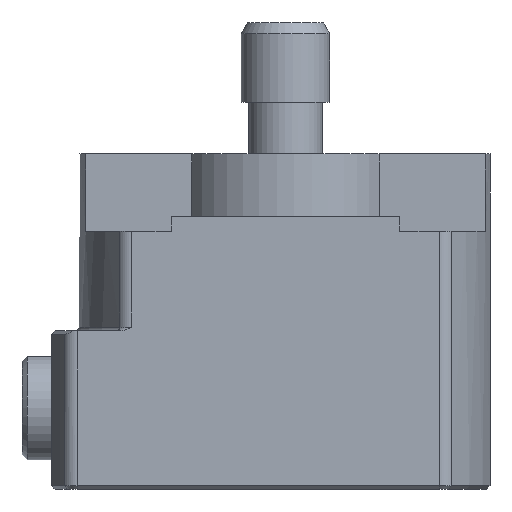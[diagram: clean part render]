
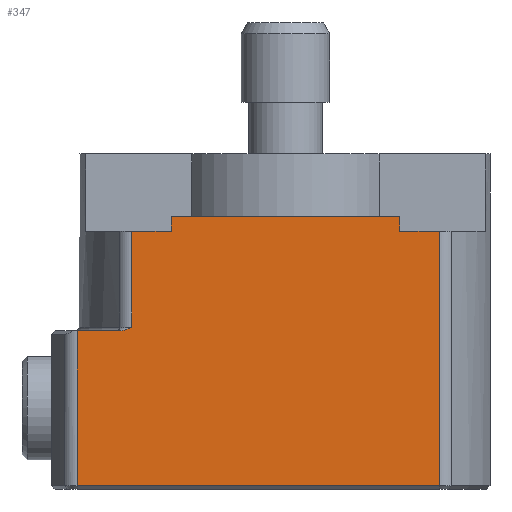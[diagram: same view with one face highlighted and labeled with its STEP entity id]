
A CAD part, left-side view. The second image highlights one B-rep face of the part: STEP entity #347.
In plain terms, the highlighted planar face has unit normal (-1, 0, 0).
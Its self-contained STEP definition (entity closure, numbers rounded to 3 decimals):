
#19 = LINE ( 'NONE', #181, #1071 ) ;
#22 = EDGE_CURVE ( 'NONE', #1704, #1698, #539, .T. ) ;
#29 = EDGE_CURVE ( 'NONE', #1300, #1130, #1294, .T. ) ;
#65 = VECTOR ( 'NONE', #1280, 1000. ) ;
#87 = CARTESIAN_POINT ( 'NONE',  ( -17.5, 21.352, 21.77 ) ) ;
#96 = CARTESIAN_POINT ( 'NONE',  ( -17.5, 21.944, 21.556 ) ) ;
#108 = CARTESIAN_POINT ( 'NONE',  ( -17.5, 21.665, 21.642 ) ) ;
#110 = CARTESIAN_POINT ( 'NONE',  ( -17.5, 28.281, 0.5 ) ) ;
#130 = DIRECTION ( 'NONE',  ( 1., 0., 0. ) ) ;
#181 = CARTESIAN_POINT ( 'NONE',  ( -17.5, 15.5, 37. ) ) ;
#185 = ORIENTED_EDGE ( 'NONE', *, *, #675, .F. ) ;
#212 = CARTESIAN_POINT ( 'NONE',  ( -17.5, 15.5, 35. ) ) ;
#240 = EDGE_CURVE ( 'NONE', #1733, #685, #1096, .T. ) ;
#251 = CARTESIAN_POINT ( 'NONE',  ( -17.5, 27.75, 35. ) ) ;
#253 = DIRECTION ( 'NONE',  ( 0., 1., 0. ) ) ;
#254 = CARTESIAN_POINT ( 'NONE',  ( -17.5, 20.875, 22. ) ) ;
#263 = DIRECTION ( 'NONE',  ( 0., -1., 0. ) ) ;
#271 = VERTEX_POINT ( 'NONE', #212 ) ;
#338 = B_SPLINE_CURVE_WITH_KNOTS ( 'NONE', 3,
 ( #1919, #686, #1011, #96, #1599, #1777, #404, #1024, #108, #1588, #412, #395, #1142, #1438, #1286, #1884, #571, #87, #713, #706, #1460, #1298, #554, #384, #1892 ),
 .UNSPECIFIED., .F., .F.,
 ( 4, 2, 2, 2, 1, 2, 2, 2, 1, 2, 2, 1, 2, 4 ),
 ( 0., 0.25, 0.375, 0.438, 0.469, 0.484, 0.5, 0.625, 0.656, 0.664, 0.672, 0.688, 0.75, 1. ),
 .UNSPECIFIED. ) ;
#347 = ADVANCED_FACE ( 'NONE', ( #1905 ), #547, .F. ) ;
#379 = EDGE_CURVE ( 'NONE', #387, #685, #729, .T. ) ;
#384 = CARTESIAN_POINT ( 'NONE',  ( -17.5, 21.033, 21.921 ) ) ;
#385 = VECTOR ( 'NONE', #479, 1000. ) ;
#387 = VERTEX_POINT ( 'NONE', #110 ) ;
#395 = CARTESIAN_POINT ( 'NONE',  ( -17.5, 21.612, 21.662 ) ) ;
#404 = CARTESIAN_POINT ( 'NONE',  ( -17.5, 21.742, 21.616 ) ) ;
#406 = CARTESIAN_POINT ( 'NONE',  ( -17.5, -20.875, 0.5 ) ) ;
#412 = CARTESIAN_POINT ( 'NONE',  ( -17.5, 21.622, 21.658 ) ) ;
#427 = CARTESIAN_POINT ( 'NONE',  ( -17.5, -15.5, 37. ) ) ;
#448 = CARTESIAN_POINT ( 'NONE',  ( -17.5, 22.375, 21.5 ) ) ;
#479 = DIRECTION ( 'NONE',  ( 0., -1., 0. ) ) ;
#539 = LINE ( 'NONE', #1137, #1353 ) ;
#547 = PLANE ( 'NONE',  #1451 ) ;
#549 = EDGE_CURVE ( 'NONE', #1704, #271, #19, .T. ) ;
#554 = CARTESIAN_POINT ( 'NONE',  ( -17.5, 21.161, 21.857 ) ) ;
#571 = CARTESIAN_POINT ( 'NONE',  ( -17.5, 21.361, 21.766 ) ) ;
#641 = VECTOR ( 'NONE', #1701, 1000. ) ;
#654 = LINE ( 'NONE', #1122, #1547 ) ;
#671 = EDGE_CURVE ( 'NONE', #1104, #1876, #654, .T. ) ;
#672 = CARTESIAN_POINT ( 'NONE',  ( -17.5, 20.875, 35. ) ) ;
#675 = EDGE_CURVE ( 'NONE', #1876, #271, #1718, .T. ) ;
#685 = VERTEX_POINT ( 'NONE', #1093 ) ;
#686 = CARTESIAN_POINT ( 'NONE',  ( -17.5, 22.261, 21.5 ) ) ;
#692 = VECTOR ( 'NONE', #962, 1000. ) ;
#693 = DIRECTION ( 'NONE',  ( 0., -1., 0. ) ) ;
#706 = CARTESIAN_POINT ( 'NONE',  ( -17.5, 21.342, 21.774 ) ) ;
#713 = CARTESIAN_POINT ( 'NONE',  ( -17.5, 21.35, 21.771 ) ) ;
#729 = LINE ( 'NONE', #406, #1890 ) ;
#772 = LINE ( 'NONE', #1692, #641 ) ;
#788 = EDGE_CURVE ( 'NONE', #1300, #1104, #338, .T. ) ;
#806 = VERTEX_POINT ( 'NONE', #1309 ) ;
#878 = CARTESIAN_POINT ( 'NONE',  ( -17.5, 15.5, 37. ) ) ;
#899 = CARTESIAN_POINT ( 'NONE',  ( -17.5, 20.875, 35. ) ) ;
#912 = ORIENTED_EDGE ( 'NONE', *, *, #29, .T. ) ;
#915 = ORIENTED_EDGE ( 'NONE', *, *, #1423, .F. ) ;
#946 = VECTOR ( 'NONE', #253, 1000. ) ;
#954 = LINE ( 'NONE', #1875, #1927 ) ;
#960 = ORIENTED_EDGE ( 'NONE', *, *, #379, .T. ) ;
#962 = DIRECTION ( 'NONE',  ( 0., -1., 0. ) ) ;
#1010 = ORIENTED_EDGE ( 'NONE', *, *, #22, .F. ) ;
#1011 = CARTESIAN_POINT ( 'NONE',  ( -17.5, 22.138, 21.514 ) ) ;
#1024 = CARTESIAN_POINT ( 'NONE',  ( -17.5, 21.691, 21.633 ) ) ;
#1071 = VECTOR ( 'NONE', #1670, 1000. ) ;
#1093 = CARTESIAN_POINT ( 'NONE',  ( -17.5, -20.875, 0.5 ) ) ;
#1095 = EDGE_LOOP ( 'NONE', ( #1221, #960, #1201, #1730, #915, #1010, #1921, #185, #1171, #1624, #912 ) ) ;
#1096 = LINE ( 'NONE', #1432, #65 ) ;
#1104 = VERTEX_POINT ( 'NONE', #254 ) ;
#1122 = CARTESIAN_POINT ( 'NONE',  ( -17.5, 20.875, 35. ) ) ;
#1130 = VERTEX_POINT ( 'NONE', #1586 ) ;
#1137 = CARTESIAN_POINT ( 'NONE',  ( -17.5, 15.5, 37. ) ) ;
#1142 = CARTESIAN_POINT ( 'NONE',  ( -17.5, 21.545, 21.687 ) ) ;
#1171 = ORIENTED_EDGE ( 'NONE', *, *, #671, .F. ) ;
#1201 = ORIENTED_EDGE ( 'NONE', *, *, #240, .F. ) ;
#1221 = ORIENTED_EDGE ( 'NONE', *, *, #1742, .F. ) ;
#1257 = LINE ( 'NONE', #1702, #385 ) ;
#1280 = DIRECTION ( 'NONE',  ( 0., 0., -1. ) ) ;
#1286 = CARTESIAN_POINT ( 'NONE',  ( -17.5, 21.402, 21.748 ) ) ;
#1294 = LINE ( 'NONE', #1900, #946 ) ;
#1298 = CARTESIAN_POINT ( 'NONE',  ( -17.5, 21.287, 21.799 ) ) ;
#1300 = VERTEX_POINT ( 'NONE', #448 ) ;
#1309 = CARTESIAN_POINT ( 'NONE',  ( -17.5, -15.5, 35. ) ) ;
#1353 = VECTOR ( 'NONE', #693, 1000. ) ;
#1362 = CARTESIAN_POINT ( 'NONE',  ( -17.5, -20.875, 35. ) ) ;
#1383 = DIRECTION ( 'NONE',  ( 0., 0., -1. ) ) ;
#1392 = EDGE_CURVE ( 'NONE', #806, #1733, #1257, .T. ) ;
#1423 = EDGE_CURVE ( 'NONE', #1698, #806, #954, .T. ) ;
#1432 = CARTESIAN_POINT ( 'NONE',  ( -17.5, -20.875, 35. ) ) ;
#1438 = CARTESIAN_POINT ( 'NONE',  ( -17.5, 21.483, 21.713 ) ) ;
#1451 = AXIS2_PLACEMENT_3D ( 'NONE', #251, #130, #263 ) ;
#1460 = CARTESIAN_POINT ( 'NONE',  ( -17.5, 21.316, 21.786 ) ) ;
#1540 = DIRECTION ( 'NONE',  ( 0., 0., 1. ) ) ;
#1547 = VECTOR ( 'NONE', #1540, 1000. ) ;
#1586 = CARTESIAN_POINT ( 'NONE',  ( -17.5, 28.281, 21.5 ) ) ;
#1588 = CARTESIAN_POINT ( 'NONE',  ( -17.5, 21.639, 21.652 ) ) ;
#1599 = CARTESIAN_POINT ( 'NONE',  ( -17.5, 21.877, 21.574 ) ) ;
#1624 = ORIENTED_EDGE ( 'NONE', *, *, #788, .F. ) ;
#1670 = DIRECTION ( 'NONE',  ( 0., 0., -1. ) ) ;
#1692 = CARTESIAN_POINT ( 'NONE',  ( -17.5, 28.281, 35. ) ) ;
#1698 = VERTEX_POINT ( 'NONE', #427 ) ;
#1701 = DIRECTION ( 'NONE',  ( 0., 0., 1. ) ) ;
#1702 = CARTESIAN_POINT ( 'NONE',  ( -17.5, 20.875, 35. ) ) ;
#1704 = VERTEX_POINT ( 'NONE', #878 ) ;
#1718 = LINE ( 'NONE', #672, #692 ) ;
#1730 = ORIENTED_EDGE ( 'NONE', *, *, #1392, .F. ) ;
#1733 = VERTEX_POINT ( 'NONE', #1362 ) ;
#1742 = EDGE_CURVE ( 'NONE', #387, #1130, #772, .T. ) ;
#1750 = DIRECTION ( 'NONE',  ( 0., -1., 0. ) ) ;
#1777 = CARTESIAN_POINT ( 'NONE',  ( -17.5, 21.776, 21.604 ) ) ;
#1875 = CARTESIAN_POINT ( 'NONE',  ( -17.5, -15.5, 37. ) ) ;
#1876 = VERTEX_POINT ( 'NONE', #899 ) ;
#1884 = CARTESIAN_POINT ( 'NONE',  ( -17.5, 21.381, 21.757 ) ) ;
#1890 = VECTOR ( 'NONE', #1750, 1000. ) ;
#1892 = CARTESIAN_POINT ( 'NONE',  ( -17.5, 20.875, 22. ) ) ;
#1900 = CARTESIAN_POINT ( 'NONE',  ( -17.5, 13.875, 21.5 ) ) ;
#1905 = FACE_OUTER_BOUND ( 'NONE', #1095, .T. ) ;
#1919 = CARTESIAN_POINT ( 'NONE',  ( -17.5, 22.375, 21.5 ) ) ;
#1921 = ORIENTED_EDGE ( 'NONE', *, *, #549, .T. ) ;
#1927 = VECTOR ( 'NONE', #1383, 1000. ) ;
